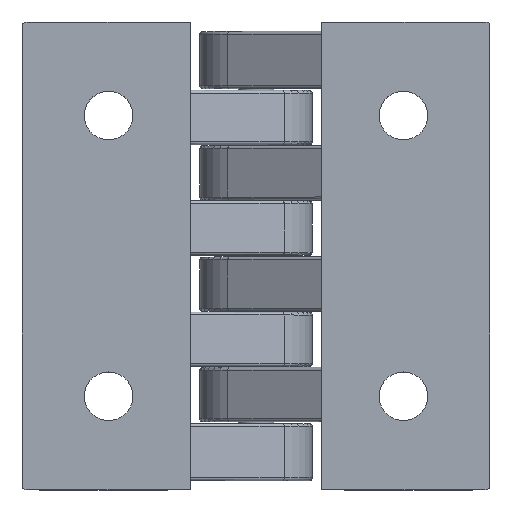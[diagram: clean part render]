
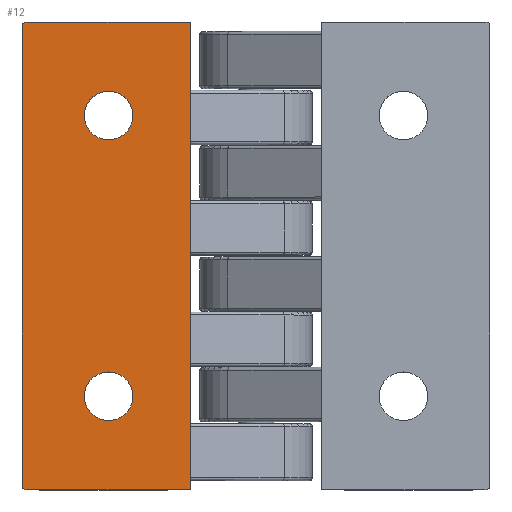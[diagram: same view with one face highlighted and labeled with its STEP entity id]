
A CAD part, top view. The second image highlights one B-rep face of the part: STEP entity #12.
In plain terms, the highlighted planar face has unit normal (0, 0, 1).
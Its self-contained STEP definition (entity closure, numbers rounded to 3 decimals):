
#1 = ORIENTED_EDGE ( 'NONE', *, *, #547, .T. ) ;
#2 = ORIENTED_EDGE ( 'NONE', *, *, #6, .T. ) ;
#3 = EDGE_CURVE ( 'NONE', #94, #86, #1069, .T. ) ;
#4 = EDGE_CURVE ( 'NONE', #74, #269, #1153, .T. ) ;
#5 = ORIENTED_EDGE ( 'NONE', *, *, #67, .T. ) ;
#6 = EDGE_CURVE ( 'NONE', #431, #450, #1105, .T. ) ;
#7 = ORIENTED_EDGE ( 'NONE', *, *, #305, .T. ) ;
#8 = ORIENTED_EDGE ( 'NONE', *, *, #449, .T. ) ;
#10 = EDGE_CURVE ( 'NONE', #62, #304, #1176, .T. ) ;
#11 = ORIENTED_EDGE ( 'NONE', *, *, #10, .T. ) ;
#12 = ADVANCED_FACE ( 'NONE', ( #1179, #1177, #1170 ), #1175, .F. ) ;
#14 = ORIENTED_EDGE ( 'NONE', *, *, #4, .T. ) ;
#16 = ORIENTED_EDGE ( 'NONE', *, *, #3, .F. ) ;
#54 = EDGE_LOOP ( 'NONE', ( #2, #8 ) ) ;
#55 = EDGE_CURVE ( 'NONE', #94, #62, #1250, .T. ) ;
#62 = VERTEX_POINT ( 'NONE', #1238 ) ;
#64 = ORIENTED_EDGE ( 'NONE', *, *, #55, .T. ) ;
#66 = EDGE_LOOP ( 'NONE', ( #64, #11, #5, #14, #7, #16 ) ) ;
#67 = EDGE_CURVE ( 'NONE', #304, #74, #1268, .T. ) ;
#74 = VERTEX_POINT ( 'NONE', #1259 ) ;
#75 = EDGE_LOOP ( 'NONE', ( #87, #1 ) ) ;
#86 = VERTEX_POINT ( 'NONE', #1277 ) ;
#87 = ORIENTED_EDGE ( 'NONE', *, *, #282, .T. ) ;
#94 = VERTEX_POINT ( 'NONE', #1276 ) ;
#269 = VERTEX_POINT ( 'NONE', #1568 ) ;
#282 = EDGE_CURVE ( 'NONE', #480, #492, #1596, .T. ) ;
#304 = VERTEX_POINT ( 'NONE', #1650 ) ;
#305 = EDGE_CURVE ( 'NONE', #269, #86, #1653, .T. ) ;
#431 = VERTEX_POINT ( 'NONE', #1939 ) ;
#449 = EDGE_CURVE ( 'NONE', #450, #431, #1969, .T. ) ;
#450 = VERTEX_POINT ( 'NONE', #1923 ) ;
#480 = VERTEX_POINT ( 'NONE', #2035 ) ;
#492 = VERTEX_POINT ( 'NONE', #2009 ) ;
#547 = EDGE_CURVE ( 'NONE', #492, #480, #2136, .T. ) ;
#1069 = LINE ( 'NONE', #1156, #1155 ) ;
#1105 = CIRCLE ( 'NONE', #1152, 2.6 ) ;
#1141 = DIRECTION ( 'NONE',  ( -1., 0., 0. ) ) ;
#1145 = CARTESIAN_POINT ( 'NONE',  ( 0.582, 0., 18. ) ) ;
#1146 = CARTESIAN_POINT ( 'NONE',  ( 0.372, 0., 18. ) ) ;
#1147 = CARTESIAN_POINT ( 'NONE',  ( 0.172, 0.063, 18. ) ) ;
#1148 = CARTESIAN_POINT ( 'NONE',  ( 0., 0.182, 18. ) ) ;
#1151 = CARTESIAN_POINT ( 'NONE',  ( 9.25, 10., 18. ) ) ;
#1152 = AXIS2_PLACEMENT_3D ( 'NONE', #1151, #1158, #1141 ) ;
#1153 =( BOUNDED_CURVE ( )  B_SPLINE_CURVE ( 3, ( #1148, #1147, #1146, #1145 ),
 .UNSPECIFIED., .F., .F. ) 
 B_SPLINE_CURVE_WITH_KNOTS ( ( 4, 4 ),
 ( 0.957, 1.571 ),
 .UNSPECIFIED. ) 
 CURVE ( )  GEOMETRIC_REPRESENTATION_ITEM ( )  RATIONAL_B_SPLINE_CURVE ( ( 1., 0.969, 0.969, 1. ) ) 
 REPRESENTATION_ITEM ( '' )  );
#1154 = DIRECTION ( 'NONE',  ( 0., -1., 0. ) ) ;
#1155 = VECTOR ( 'NONE', #1154, 1000. ) ;
#1156 = CARTESIAN_POINT ( 'NONE',  ( 18., 50., 18. ) ) ;
#1158 = DIRECTION ( 'NONE',  ( 0., 0., -1. ) ) ;
#1160 = DIRECTION ( 'NONE',  ( -1., 0., 0. ) ) ;
#1161 = DIRECTION ( 'NONE',  ( 0., 0., -1. ) ) ;
#1162 = CARTESIAN_POINT ( 'NONE',  ( 0., 50., 18. ) ) ;
#1163 = AXIS2_PLACEMENT_3D ( 'NONE', #1162, #1161, #1160 ) ;
#1170 = FACE_OUTER_BOUND ( 'NONE', #66, .T. ) ;
#1171 = CARTESIAN_POINT ( 'NONE',  ( 0., 49.818, 18. ) ) ;
#1172 = CARTESIAN_POINT ( 'NONE',  ( 0.172, 49.937, 18. ) ) ;
#1173 = CARTESIAN_POINT ( 'NONE',  ( 0.372, 50., 18. ) ) ;
#1174 = CARTESIAN_POINT ( 'NONE',  ( 0.582, 50., 18. ) ) ;
#1175 = PLANE ( 'NONE',  #1163 ) ;
#1176 =( BOUNDED_CURVE ( )  B_SPLINE_CURVE ( 3, ( #1174, #1173, #1172, #1171 ),
 .UNSPECIFIED., .F., .T. ) 
 B_SPLINE_CURVE_WITH_KNOTS ( ( 4, 4 ),
 ( 4.712, 5.326 ),
 .UNSPECIFIED. ) 
 CURVE ( )  GEOMETRIC_REPRESENTATION_ITEM ( )  RATIONAL_B_SPLINE_CURVE ( ( 1., 0.969, 0.969, 1. ) ) 
 REPRESENTATION_ITEM ( '' )  );
#1177 = FACE_BOUND ( 'NONE', #54, .T. ) ;
#1179 = FACE_BOUND ( 'NONE', #75, .T. ) ;
#1235 = DIRECTION ( 'NONE',  ( -1., 0., 0. ) ) ;
#1236 = VECTOR ( 'NONE', #1235, 1000. ) ;
#1237 = CARTESIAN_POINT ( 'NONE',  ( 0., 50., 18. ) ) ;
#1238 = CARTESIAN_POINT ( 'NONE',  ( 0.582, 50., 18. ) ) ;
#1250 = LINE ( 'NONE', #1237, #1236 ) ;
#1259 = CARTESIAN_POINT ( 'NONE',  ( 0., 0.182, 18. ) ) ;
#1265 = DIRECTION ( 'NONE',  ( 0., -1., 0. ) ) ;
#1266 = VECTOR ( 'NONE', #1265, 1000. ) ;
#1267 = CARTESIAN_POINT ( 'NONE',  ( 0., 0., 18. ) ) ;
#1268 = LINE ( 'NONE', #1267, #1266 ) ;
#1276 = CARTESIAN_POINT ( 'NONE',  ( 18., 50., 18. ) ) ;
#1277 = CARTESIAN_POINT ( 'NONE',  ( 18., 0., 18. ) ) ;
#1568 = CARTESIAN_POINT ( 'NONE',  ( 0.582, 0., 18. ) ) ;
#1596 = CIRCLE ( 'NONE', #1636, 2.6 ) ;
#1634 = DIRECTION ( 'NONE',  ( -1., 0., 0. ) ) ;
#1635 = DIRECTION ( 'NONE',  ( 0., 0., -1. ) ) ;
#1636 = AXIS2_PLACEMENT_3D ( 'NONE', #1641, #1635, #1634 ) ;
#1641 = CARTESIAN_POINT ( 'NONE',  ( 9.25, 40., 18. ) ) ;
#1650 = CARTESIAN_POINT ( 'NONE',  ( 0., 49.818, 18. ) ) ;
#1653 = LINE ( 'NONE', #1712, #1711 ) ;
#1710 = DIRECTION ( 'NONE',  ( 1., 0., 0. ) ) ;
#1711 = VECTOR ( 'NONE', #1710, 1000. ) ;
#1712 = CARTESIAN_POINT ( 'NONE',  ( 0., 0., 18. ) ) ;
#1923 = CARTESIAN_POINT ( 'NONE',  ( 11.85, 10., 18. ) ) ;
#1939 = CARTESIAN_POINT ( 'NONE',  ( 6.65, 10., 18. ) ) ;
#1963 = DIRECTION ( 'NONE',  ( -1., 0., 0. ) ) ;
#1964 = DIRECTION ( 'NONE',  ( 0., 0., -1. ) ) ;
#1965 = CARTESIAN_POINT ( 'NONE',  ( 9.25, 10., 18. ) ) ;
#1966 = AXIS2_PLACEMENT_3D ( 'NONE', #1965, #1964, #1963 ) ;
#1969 = CIRCLE ( 'NONE', #1966, 2.6 ) ;
#2009 = CARTESIAN_POINT ( 'NONE',  ( 11.85, 40., 18. ) ) ;
#2035 = CARTESIAN_POINT ( 'NONE',  ( 6.65, 40., 18. ) ) ;
#2111 = AXIS2_PLACEMENT_3D ( 'NONE', #2183, #2181, #2180 ) ;
#2136 = CIRCLE ( 'NONE', #2111, 2.6 ) ;
#2180 = DIRECTION ( 'NONE',  ( -1., 0., 0. ) ) ;
#2181 = DIRECTION ( 'NONE',  ( 0., 0., -1. ) ) ;
#2183 = CARTESIAN_POINT ( 'NONE',  ( 9.25, 40., 18. ) ) ;
